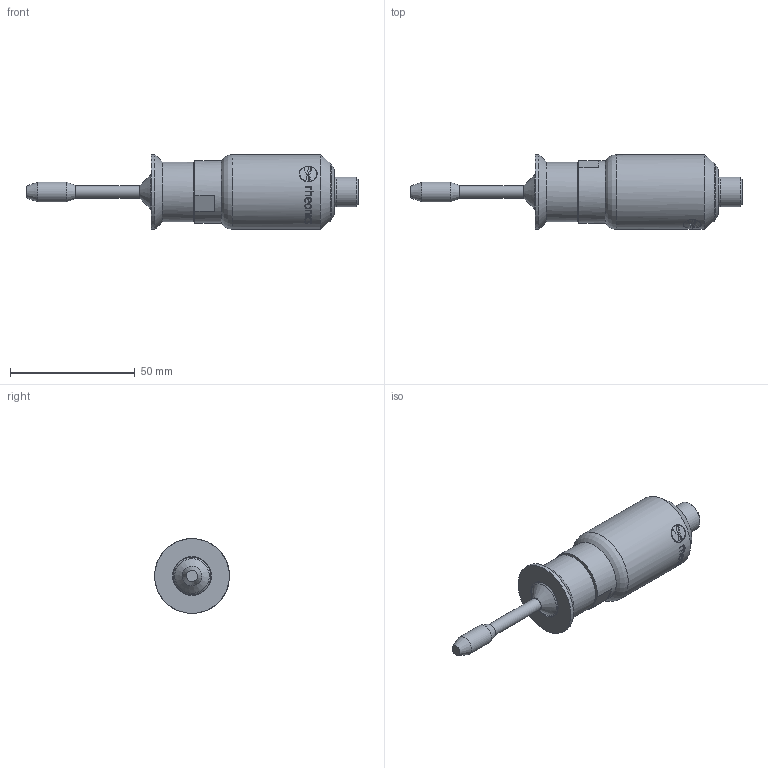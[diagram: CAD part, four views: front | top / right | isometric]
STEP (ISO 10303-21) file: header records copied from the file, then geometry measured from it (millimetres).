
FILE_DESCRIPTION(/* description */ ('Unknown'),/* implementation_level */ '2;1');
FILE_NAME(/* name */ 'SRV-X1-12G_HAW-12G-MTN',/* time_stamp */ '2023-06-05T11:33:54-05:00',/* author */ ('Unknown'),/* organization */ ('Unknown'),/* preprocessor_version */ 'ST-DEVELOPER v16.7',/* originating_system */ 'Solid Edge',/* authorisation */ 'Unknown');
FILE_SCHEMA (('AUTOMOTIVE_DESIGN {1 0 10303 214 3 1 1}'));
Length unit declared in the file: millimetre
Products named in the file (3): SRV-X1-12G_HAW-12G-MTN; HAW-12G-MTN; SRV_G0.5_B
Assembly tree (2 placements, depth 2):
  SRV-X1-12G_HAW-12G-MTN
    HAW-12G-MTN
    SRV_G0.5_B
Bounding box: 133.13 x 30 x 30 mm (x, y, z)
Volume: 46867.3 mm3; surface area: 11978.2 mm2
Topology: 2 solids, 2 shells, 182 faces, 471 edges, 302 vertices
Faces by surface type: bspline 74, cylinder 42, plane 41, cone 15, sphere 8, torus 2
Full cylindrical faces by diameter (mm): 0.8 x8, 2 x1, 5.019 x1, 8 x2, 12 x2, 13.9 x1, 18 x1, 18.631 x1, 20.955 x1, 24 x1, 25 x1, 30 x2
Entity records: 8725 total; most frequent: CARTESIAN_POINT 5102, ORIENTED_EDGE 784, DIRECTION 515, EDGE_CURVE 392, VERTEX_POINT 278, EDGE_LOOP 250, FACE_BOUND 250, AXIS2_PLACEMENT_3D 192
